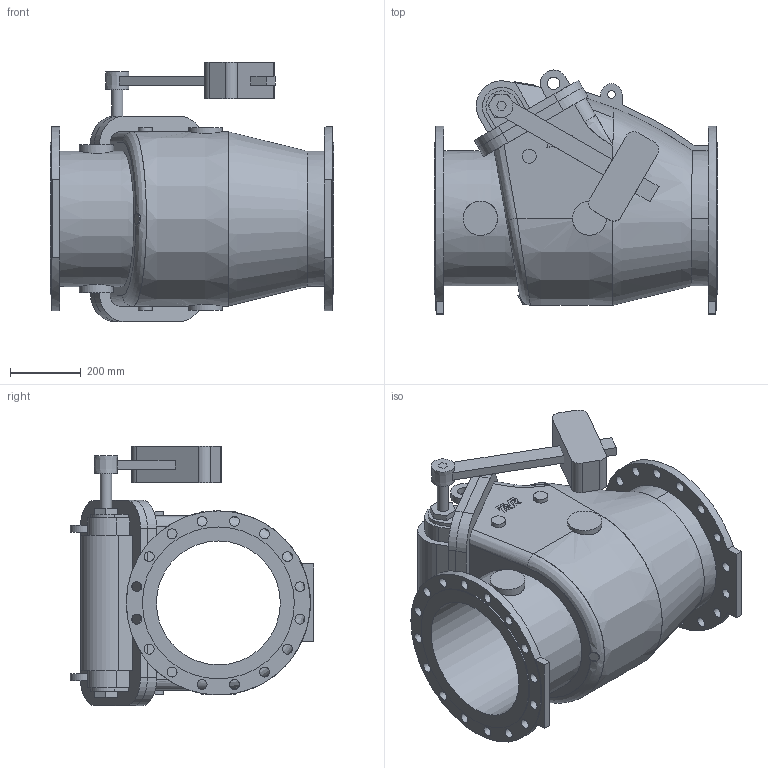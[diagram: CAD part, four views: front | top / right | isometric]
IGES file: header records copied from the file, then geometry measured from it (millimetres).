
Start section: SolidWorks IGES file using analytic representation for surfaces
Global section: file name: \\avksan2\techshare\PBM outline export from Enovia\O_41_36_DN350_X1XXX_AA0.igs; native system: SolidWorks 2012; preprocessor: SolidWorks 2012; author: pbm; date: 180816.103128; units: millimetre
Bounding box: 800 x 688.73 x 732 mm (x, y, z)
Surface area: 3251038.9 mm2 (no closed solid volume)
Topology: 0 solids, 0 shells, 316 faces, 1676 edges, 1578 vertices
Faces by surface type: bspline 230, revolution 86
